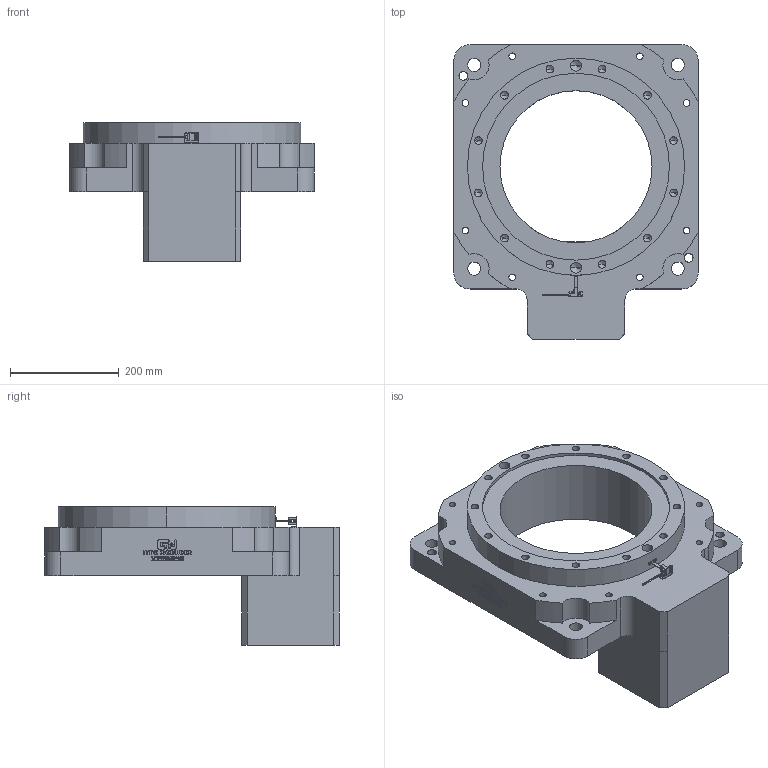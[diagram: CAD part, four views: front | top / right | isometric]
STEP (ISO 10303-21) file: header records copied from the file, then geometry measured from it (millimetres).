
FILE_DESCRIPTION (( 'STEP AP214' ), '1' );
FILE_NAME ('GT450-C-10-40-130-165-M10-2.STEP', '2024-07-05T03:42:32', ( '' ), ( '' ), 'SwSTEP 2.0', 'SolidWorks 2021', '' );
FILE_SCHEMA (( 'AUTOMOTIVE_DESIGN' ));
Length unit declared in the file: millimetre
Products named in the file (1): GT450-C-10-40-130-165-M10-2
Bounding box: 450 x 542.6 x 255 mm (x, y, z)
Volume: 18822544.1 mm3; surface area: 814322.2 mm2
Topology: 4 solids, 6 shells, 811 faces, 2206 edges, 1430 vertices
Faces by surface type: plane 539, cylinder 146, bspline 78, cone 48
Entity records: 29312 total; most frequent: CARTESIAN_POINT 5792, ORIENTED_EDGE 4316, DIRECTION 3742, EDGE_CURVE 2158, LINE 1686, VECTOR 1686, VERTEX_POINT 1430, AXIS2_PLACEMENT_3D 1028
